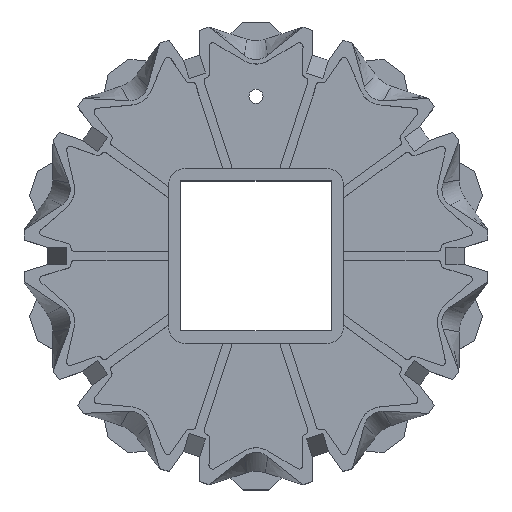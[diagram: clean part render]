
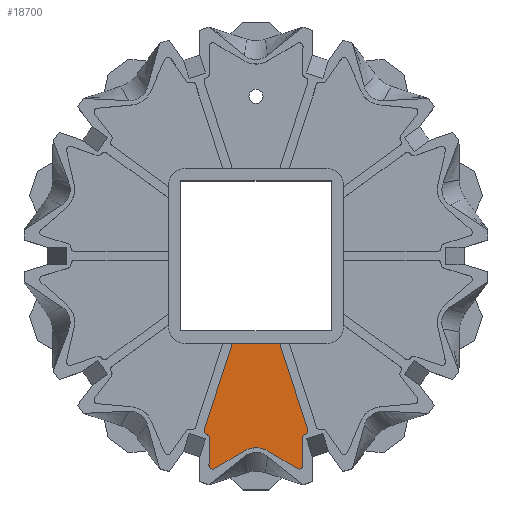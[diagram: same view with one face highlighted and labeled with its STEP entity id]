
A CAD part, top view. The second image highlights one B-rep face of the part: STEP entity #18700.
In plain terms, the highlighted planar face has unit normal (0, 0, 1).
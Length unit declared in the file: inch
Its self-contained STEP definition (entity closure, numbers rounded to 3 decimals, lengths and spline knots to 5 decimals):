
#4779=DIRECTION('',(-0.309,-0.951,0.));
#4780=VECTOR('',#4779,1.2083);
#4781=CARTESIAN_POINT('',(-0.31544,-1.165,0.075));
#4782=LINE('',#4781,#4780);
#4797=CARTESIAN_POINT('',(-0.64128,-2.32961,0.075));
#4798=DIRECTION('',(0.,0.,-1.));
#4799=DIRECTION('',(-0.309,-0.951,0.));
#4800=AXIS2_PLACEMENT_3D('',#4797,#4798,#4799);
#4827=DIRECTION('',(-0.309,0.951,0.));
#4828=VECTOR('',#4827,1.2083);
#4829=CARTESIAN_POINT('',(0.68883,-2.31416,0.075));
#4830=LINE('',#4829,#4828);
#4845=CARTESIAN_POINT('',(0.64128,-2.32961,0.075));
#4846=DIRECTION('',(0.,0.,-1.));
#4847=DIRECTION('',(0.951,0.309,0.));
#4848=AXIS2_PLACEMENT_3D('',#4845,#4846,#4847);
#4867=DIRECTION('',(0.951,0.309,0.));
#4868=VECTOR('',#4867,0.00404);
#4869=CARTESIAN_POINT('',(0.65289,-2.37841,0.075));
#4870=LINE('',#4869,#4868);
#4884=CARTESIAN_POINT('',(0.66834,-2.42597,0.075));
#4885=DIRECTION('',(0.,0.,1.));
#4886=DIRECTION('',(-0.309,0.951,0.));
#4887=AXIS2_PLACEMENT_3D('',#4884,#4885,#4886);
#4905=DIRECTION('',(0.02,-1.,0.));
#4906=VECTOR('',#4905,0.36024);
#4907=CARTESIAN_POINT('',(0.61835,-2.42698,0.075));
#4908=LINE('',#4907,#4906);
#4931=CARTESIAN_POINT('',(0.5757,-2.78817,0.075));
#4932=DIRECTION('',(0.,0.,1.));
#4933=DIRECTION('',(-0.51,-0.86,0.));
#4934=AXIS2_PLACEMENT_3D('',#4931,#4932,#4933);
#4949=DIRECTION('',(-0.86,0.51,0.));
#4950=VECTOR('',#4949,0.44408);
#4951=CARTESIAN_POINT('',(0.55019,-2.83117,0.075));
#4952=LINE('',#4951,#4950);
#4977=CARTESIAN_POINT('',(-0.16825,-2.60463,0.075));
#4978=CARTESIAN_POINT('',(-0.16272,-2.60106,0.075));
#4979=CARTESIAN_POINT('',(-0.14232,-2.58877,0.075));
#4980=CARTESIAN_POINT('',(-0.10439,-2.57152,0.075));
#4981=CARTESIAN_POINT('',(-0.05312,-2.55805,0.075));
#4982=CARTESIAN_POINT('',(0.,-2.55348,0.075));
#4983=CARTESIAN_POINT('',(0.05312,-2.55805,0.075));
#4984=CARTESIAN_POINT('',(0.10439,-2.57152,0.075));
#4985=CARTESIAN_POINT('',(0.14232,-2.58877,0.075));
#4986=CARTESIAN_POINT('',(0.16272,-2.60106,0.075));
#4987=CARTESIAN_POINT('',(0.16825,-2.60463,0.075));
#5005=DIRECTION('',(-0.86,-0.51,0.));
#5006=VECTOR('',#5005,0.44484);
#5007=CARTESIAN_POINT('',(-0.16825,-2.60463,0.075));
#5008=LINE('',#5007,#5006);
#5023=CARTESIAN_POINT('',(-0.57635,-2.78855,0.075));
#5024=DIRECTION('',(0.,0.,1.));
#5025=DIRECTION('',(-1.,0.02,0.));
#5026=AXIS2_PLACEMENT_3D('',#5023,#5024,#5025);
#5049=DIRECTION('',(0.02,1.,0.));
#5050=VECTOR('',#5049,0.36083);
#5051=CARTESIAN_POINT('',(-0.62634,-2.78753,0.075));
#5052=LINE('',#5051,#5050);
#5070=CARTESIAN_POINT('',(-0.66897,-2.42576,0.075));
#5071=DIRECTION('',(0.,0.,-1.));
#5072=DIRECTION('',(0.309,0.951,0.));
#5073=AXIS2_PLACEMENT_3D('',#5070,#5071,#5072);
#5087=DIRECTION('',(0.951,-0.309,0.));
#5088=VECTOR('',#5087,0.00337);
#5089=CARTESIAN_POINT('',(-0.65673,-2.37716,0.075));
#5090=LINE('',#5089,#5088);
#5099=DIRECTION('',(-1.,0.,0.));
#5100=VECTOR('',#5099,0.63089);
#5101=CARTESIAN_POINT('',(0.31544,-1.165,0.075));
#5102=LINE('',#5101,#5100);
#8552=VERTEX_POINT('',#4977);
#8553=VERTEX_POINT('',#4987);
#8558=CARTESIAN_POINT('',(0.65289,-2.37841,0.075));
#8559=CARTESIAN_POINT('',(0.65673,-2.37716,0.075));
#8560=VERTEX_POINT('',#8558);
#8561=VERTEX_POINT('',#8559);
#8566=CARTESIAN_POINT('',(-0.65673,-2.37716,0.075));
#8567=CARTESIAN_POINT('',(-0.65352,-2.37821,0.075));
#8568=VERTEX_POINT('',#8566);
#8569=VERTEX_POINT('',#8567);
#8572=CARTESIAN_POINT('',(0.68883,-2.31416,0.075));
#8573=VERTEX_POINT('',#8572);
#8576=CARTESIAN_POINT('',(-0.68883,-2.31416,0.075));
#8577=VERTEX_POINT('',#8576);
#8916=CARTESIAN_POINT('',(0.31544,-1.165,0.075));
#8917=VERTEX_POINT('',#8916);
#8920=CARTESIAN_POINT('',(-0.31544,-1.165,0.075));
#8921=VERTEX_POINT('',#8920);
#9214=CARTESIAN_POINT('',(0.61835,-2.42698,0.075));
#9215=CARTESIAN_POINT('',(0.62569,-2.78715,0.075));
#9216=VERTEX_POINT('',#9214);
#9217=VERTEX_POINT('',#9215);
#9222=CARTESIAN_POINT('',(-0.62634,-2.78753,0.075));
#9223=CARTESIAN_POINT('',(-0.61898,-2.42678,0.075));
#9224=VERTEX_POINT('',#9222);
#9225=VERTEX_POINT('',#9223);
#9228=CARTESIAN_POINT('',(0.55019,-2.83117,0.075));
#9229=VERTEX_POINT('',#9228);
#9232=CARTESIAN_POINT('',(-0.55084,-2.83156,0.075));
#9233=VERTEX_POINT('',#9232);
#18677=CARTESIAN_POINT('',(0.,0.,0.075));
#18678=DIRECTION('',(0.,0.,1.));
#18679=DIRECTION('',(-1.,0.,0.));
#18680=AXIS2_PLACEMENT_3D('',#18677,#18678,#18679);
#18681=PLANE('',#18680);
#18682=ORIENTED_EDGE('',*,*,#18329,.F.);
#18683=ORIENTED_EDGE('',*,*,#18353,.T.);
#18684=ORIENTED_EDGE('',*,*,#18380,.F.);
#18685=ORIENTED_EDGE('',*,*,#18407,.T.);
#18686=ORIENTED_EDGE('',*,*,#18434,.T.);
#18687=ORIENTED_EDGE('',*,*,#18461,.F.);
#18688=ORIENTED_EDGE('',*,*,#18488,.T.);
#18689=ORIENTED_EDGE('',*,*,#18535,.F.);
#18690=ORIENTED_EDGE('',*,*,#18562,.T.);
#18691=ORIENTED_EDGE('',*,*,#18589,.F.);
#18692=ORIENTED_EDGE('',*,*,#18616,.T.);
#18693=ORIENTED_EDGE('',*,*,#18643,.F.);
#18694=ORIENTED_EDGE('',*,*,#18669,.F.);
#18695=ORIENTED_EDGE('',*,*,#18262,.T.);
#18696=ORIENTED_EDGE('',*,*,#18236,.F.);
#18697=ORIENTED_EDGE('',*,*,#18208,.F.);
#18698=EDGE_LOOP('',(#18682,#18683,#18684,#18685,#18686,#18687,#18688,#18689,
#18690,#18691,#18692,#18693,#18694,#18695,#18696,#18697));
#18699=FACE_OUTER_BOUND('',#18698,.F.);
#18700=ADVANCED_FACE('',(#18699),#18681,.T.);
#4801=CIRCLE('',#4800,0.05);
#4849=CIRCLE('',#4848,0.05);
#4888=CIRCLE('',#4887,0.05);
#4935=CIRCLE('',#4934,0.05);
#4988=B_SPLINE_CURVE_WITH_KNOTS('',3,(#4977,#4978,#4979,#4980,#4981,#4982,#4983,
#4984,#4985,#4986,#4987),.UNSPECIFIED.,.F.,.F.,(4,1,1,1,1,1,1,1,4),(0.,
0.05673,0.20448,0.35224,0.5,0.64776,
0.79552,0.94327,1.),.UNSPECIFIED.);
#5027=CIRCLE('',#5026,0.05);
#5074=CIRCLE('',#5073,0.05);
#18208=EDGE_CURVE('',#8917,#8921,#5102,.T.);
#18236=EDGE_CURVE('',#8921,#8577,#4782,.T.);
#18262=EDGE_CURVE('',#8568,#8577,#4801,.T.);
#18329=EDGE_CURVE('',#8573,#8917,#4830,.T.);
#18353=EDGE_CURVE('',#8573,#8561,#4849,.T.);
#18380=EDGE_CURVE('',#8560,#8561,#4870,.T.);
#18407=EDGE_CURVE('',#8560,#9216,#4888,.T.);
#18434=EDGE_CURVE('',#9216,#9217,#4908,.T.);
#18461=EDGE_CURVE('',#9229,#9217,#4935,.T.);
#18488=EDGE_CURVE('',#9229,#8553,#4952,.T.);
#18535=EDGE_CURVE('',#8552,#8553,#4988,.T.);
#18562=EDGE_CURVE('',#8552,#9233,#5008,.T.);
#18589=EDGE_CURVE('',#9224,#9233,#5027,.T.);
#18616=EDGE_CURVE('',#9224,#9225,#5052,.T.);
#18643=EDGE_CURVE('',#8569,#9225,#5074,.T.);
#18669=EDGE_CURVE('',#8568,#8569,#5090,.T.);
